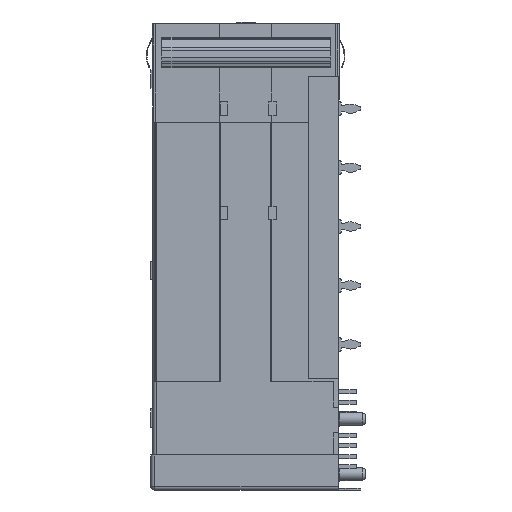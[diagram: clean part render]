
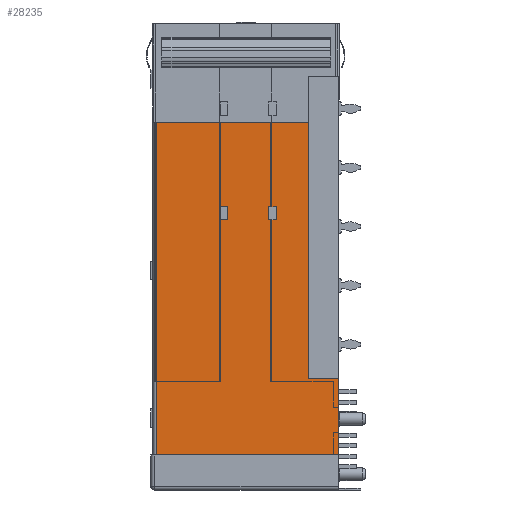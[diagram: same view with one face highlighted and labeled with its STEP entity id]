
A CAD part, left-side view. The second image highlights one B-rep face of the part: STEP entity #28235.
In plain terms, the highlighted planar face has unit normal (-1, 0, 0).
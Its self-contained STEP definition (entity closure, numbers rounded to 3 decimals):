
#386 = LINE ( 'NONE', #81996, #89363 ) ;
#2046 = EDGE_CURVE ( 'NONE', #117231, #83929, #52906, .T. ) ;
#6134 = LINE ( 'NONE', #80767, #106419 ) ;
#7210 = DIRECTION ( 'NONE',  ( 0., -1., 0. ) ) ;
#9842 = VECTOR ( 'NONE', #110119, 1000. ) ;
#10938 = CARTESIAN_POINT ( 'NONE',  ( -57.125, 9.45, -26.6 ) ) ;
#11024 = VERTEX_POINT ( 'NONE', #93796 ) ;
#14386 = CARTESIAN_POINT ( 'NONE',  ( -57.125, 0., -63.25 ) ) ;
#14907 = CARTESIAN_POINT ( 'NONE',  ( -57.125, 4.1, -13.4 ) ) ;
#16266 = CARTESIAN_POINT ( 'NONE',  ( -57.125, 0., -48.1 ) ) ;
#17219 = CARTESIAN_POINT ( 'NONE',  ( -57.125, 16., -24.8 ) ) ;
#17267 = LINE ( 'NONE', #79082, #119279 ) ;
#18083 = EDGE_CURVE ( 'NONE', #11024, #102545, #386, .T. ) ;
#18387 = DIRECTION ( 'NONE',  ( 0., -1., 0. ) ) ;
#18960 = ORIENTED_EDGE ( 'NONE', *, *, #45185, .T. ) ;
#19358 = EDGE_CURVE ( 'NONE', #71463, #51088, #21441, .T. ) ;
#21441 = LINE ( 'NONE', #16266, #77375 ) ;
#24355 = DIRECTION ( 'NONE',  ( 0., 0., 1. ) ) ;
#24608 = LINE ( 'NONE', #10938, #27869 ) ;
#25186 = ORIENTED_EDGE ( 'NONE', *, *, #18083, .T. ) ;
#26535 = CARTESIAN_POINT ( 'NONE',  ( -57.125, 16., -26.6 ) ) ;
#27360 = DIRECTION ( 'NONE',  ( 0., 0., -1. ) ) ;
#27869 = VECTOR ( 'NONE', #115751, 1000. ) ;
#28235 = ADVANCED_FACE ( 'NONE', ( #29210, #134500, #75287 ), #128696, .T. ) ;
#29210 = FACE_BOUND ( 'NONE', #91077, .T. ) ;
#31870 = DIRECTION ( 'NONE',  ( 0., 0., -1. ) ) ;
#34659 = EDGE_CURVE ( 'NONE', #116170, #80250, #111784, .T. ) ;
#35879 = EDGE_CURVE ( 'NONE', #64431, #116170, #6134, .T. ) ;
#36629 = ORIENTED_EDGE ( 'NONE', *, *, #19358, .T. ) ;
#39857 = DIRECTION ( 'NONE',  ( 0., 1., 0. ) ) ;
#44639 = VECTOR ( 'NONE', #7210, 1000. ) ;
#44725 = CARTESIAN_POINT ( 'NONE',  ( -57.125, 15., -24.8 ) ) ;
#44996 = DIRECTION ( 'NONE',  ( 0., -1., 0. ) ) ;
#45185 = EDGE_CURVE ( 'NONE', #110177, #96390, #105001, .T. ) ;
#45933 = ORIENTED_EDGE ( 'NONE', *, *, #2046, .T. ) ;
#46806 = CARTESIAN_POINT ( 'NONE',  ( -57.125, 25.2, -58.5 ) ) ;
#47116 = DIRECTION ( 'NONE',  ( 0., 1., 0. ) ) ;
#47555 = EDGE_CURVE ( 'NONE', #102545, #110177, #51209, .T. ) ;
#49703 = ORIENTED_EDGE ( 'NONE', *, *, #35879, .T. ) ;
#51088 = VERTEX_POINT ( 'NONE', #101050 ) ;
#51209 = LINE ( 'NONE', #71603, #44639 ) ;
#52906 = LINE ( 'NONE', #46806, #133511 ) ;
#53852 = CARTESIAN_POINT ( 'NONE',  ( -57.125, 0., -58.5 ) ) ;
#57629 = DIRECTION ( 'NONE',  ( 0., 0., 1. ) ) ;
#59051 = VECTOR ( 'NONE', #18387, 1000. ) ;
#59608 = CARTESIAN_POINT ( 'NONE',  ( -57.125, 9.45, -24.8 ) ) ;
#61723 = CARTESIAN_POINT ( 'NONE',  ( -57.125, 0., -48.1 ) ) ;
#62933 = LINE ( 'NONE', #91730, #105660 ) ;
#64104 = DIRECTION ( 'NONE',  ( 0., 0., -1. ) ) ;
#64431 = VERTEX_POINT ( 'NONE', #124835 ) ;
#64734 = VECTOR ( 'NONE', #127743, 1000. ) ;
#65270 = DIRECTION ( 'NONE',  ( -1., 0., 0. ) ) ;
#65670 = LINE ( 'NONE', #91041, #59051 ) ;
#67017 = EDGE_CURVE ( 'NONE', #132979, #100252, #17267, .T. ) ;
#68080 = CARTESIAN_POINT ( 'NONE',  ( -57.125, 8.45, -24.8 ) ) ;
#68209 = ORIENTED_EDGE ( 'NONE', *, *, #134717, .T. ) ;
#71463 = VERTEX_POINT ( 'NONE', #61723 ) ;
#71603 = CARTESIAN_POINT ( 'NONE',  ( -57.125, 9.45, -24.8 ) ) ;
#73841 = EDGE_CURVE ( 'NONE', #51088, #100252, #104347, .T. ) ;
#74273 = EDGE_LOOP ( 'NONE', ( #106189, #97997, #45933, #125994, #36629, #97785 ) ) ;
#75287 = FACE_OUTER_BOUND ( 'NONE', #74273, .T. ) ;
#77171 = LINE ( 'NONE', #14386, #95209 ) ;
#77375 = VECTOR ( 'NONE', #47116, 1000. ) ;
#79082 = CARTESIAN_POINT ( 'NONE',  ( -57.125, 25.2, -13.4 ) ) ;
#80250 = VERTEX_POINT ( 'NONE', #80686 ) ;
#80686 = CARTESIAN_POINT ( 'NONE',  ( -57.125, 16., -24.8 ) ) ;
#80767 = CARTESIAN_POINT ( 'NONE',  ( -57.125, 16., -26.6 ) ) ;
#81996 = CARTESIAN_POINT ( 'NONE',  ( -57.125, 9.45, -24.8 ) ) ;
#83519 = EDGE_CURVE ( 'NONE', #83929, #71463, #77171, .T. ) ;
#83929 = VERTEX_POINT ( 'NONE', #53852 ) ;
#84363 = AXIS2_PLACEMENT_3D ( 'NONE', #118585, #65270, #24355 ) ;
#85717 = ORIENTED_EDGE ( 'NONE', *, *, #90028, .T. ) ;
#85906 = CARTESIAN_POINT ( 'NONE',  ( -57.125, 4.1, -7.1 ) ) ;
#88067 = LINE ( 'NONE', #127086, #134077 ) ;
#89363 = VECTOR ( 'NONE', #133933, 1000. ) ;
#90028 = EDGE_CURVE ( 'NONE', #96390, #11024, #24608, .T. ) ;
#91041 = CARTESIAN_POINT ( 'NONE',  ( -57.125, 16., -24.8 ) ) ;
#91077 = EDGE_LOOP ( 'NONE', ( #107319, #18960, #85717, #25186 ) ) ;
#91730 = CARTESIAN_POINT ( 'NONE',  ( -57.125, 24.7, -63.25 ) ) ;
#92441 = EDGE_CURVE ( 'NONE', #132979, #117231, #62933, .T. ) ;
#93796 = CARTESIAN_POINT ( 'NONE',  ( -57.125, 9.45, -26.6 ) ) ;
#94397 = CARTESIAN_POINT ( 'NONE',  ( -57.125, 8.45, -24.8 ) ) ;
#95209 = VECTOR ( 'NONE', #57629, 1000. ) ;
#95382 = CARTESIAN_POINT ( 'NONE',  ( -57.125, 24.7, -13.4 ) ) ;
#96390 = VERTEX_POINT ( 'NONE', #129248 ) ;
#97785 = ORIENTED_EDGE ( 'NONE', *, *, #73841, .T. ) ;
#97997 = ORIENTED_EDGE ( 'NONE', *, *, #92441, .T. ) ;
#100252 = VERTEX_POINT ( 'NONE', #14907 ) ;
#100669 = VERTEX_POINT ( 'NONE', #44725 ) ;
#101050 = CARTESIAN_POINT ( 'NONE',  ( -57.125, 4.1, -48.1 ) ) ;
#102545 = VERTEX_POINT ( 'NONE', #59608 ) ;
#104347 = LINE ( 'NONE', #85906, #64734 ) ;
#105001 = LINE ( 'NONE', #94397, #121493 ) ;
#105348 = EDGE_CURVE ( 'NONE', #80250, #100669, #65670, .T. ) ;
#105660 = VECTOR ( 'NONE', #27360, 1000. ) ;
#106189 = ORIENTED_EDGE ( 'NONE', *, *, #67017, .F. ) ;
#106419 = VECTOR ( 'NONE', #39857, 1000. ) ;
#107319 = ORIENTED_EDGE ( 'NONE', *, *, #47555, .T. ) ;
#107632 = CARTESIAN_POINT ( 'NONE',  ( -57.125, 24.7, -58.5 ) ) ;
#110119 = DIRECTION ( 'NONE',  ( 0., 0., 1. ) ) ;
#110177 = VERTEX_POINT ( 'NONE', #68080 ) ;
#111784 = LINE ( 'NONE', #17219, #9842 ) ;
#113132 = ORIENTED_EDGE ( 'NONE', *, *, #34659, .T. ) ;
#115751 = DIRECTION ( 'NONE',  ( 0., 1., 0. ) ) ;
#116170 = VERTEX_POINT ( 'NONE', #26535 ) ;
#117231 = VERTEX_POINT ( 'NONE', #107632 ) ;
#118585 = CARTESIAN_POINT ( 'NONE',  ( -57.125, 0., -63.25 ) ) ;
#119279 = VECTOR ( 'NONE', #131041, 1000. ) ;
#119491 = EDGE_LOOP ( 'NONE', ( #120249, #68209, #49703, #113132 ) ) ;
#120249 = ORIENTED_EDGE ( 'NONE', *, *, #105348, .T. ) ;
#121493 = VECTOR ( 'NONE', #31870, 1000. ) ;
#124835 = CARTESIAN_POINT ( 'NONE',  ( -57.125, 15., -26.6 ) ) ;
#125994 = ORIENTED_EDGE ( 'NONE', *, *, #83519, .T. ) ;
#127086 = CARTESIAN_POINT ( 'NONE',  ( -57.125, 15., -24.8 ) ) ;
#127743 = DIRECTION ( 'NONE',  ( 0., 0., 1. ) ) ;
#128696 = PLANE ( 'NONE',  #84363 ) ;
#129248 = CARTESIAN_POINT ( 'NONE',  ( -57.125, 8.45, -26.6 ) ) ;
#131041 = DIRECTION ( 'NONE',  ( 0., -1., 0. ) ) ;
#132979 = VERTEX_POINT ( 'NONE', #95382 ) ;
#133511 = VECTOR ( 'NONE', #44996, 1000. ) ;
#133933 = DIRECTION ( 'NONE',  ( 0., 0., 1. ) ) ;
#134077 = VECTOR ( 'NONE', #64104, 1000. ) ;
#134500 = FACE_BOUND ( 'NONE', #119491, .T. ) ;
#134717 = EDGE_CURVE ( 'NONE', #100669, #64431, #88067, .T. ) ;
